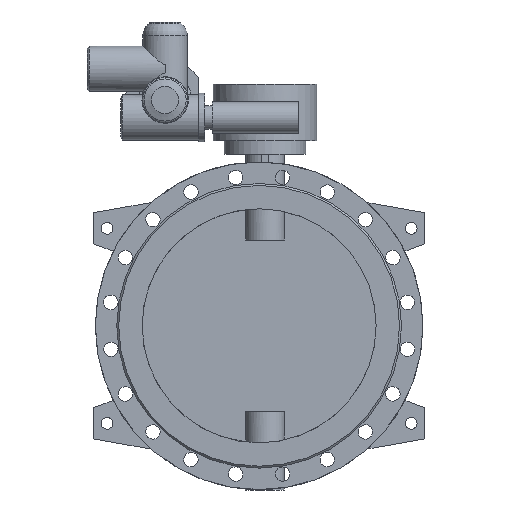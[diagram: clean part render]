
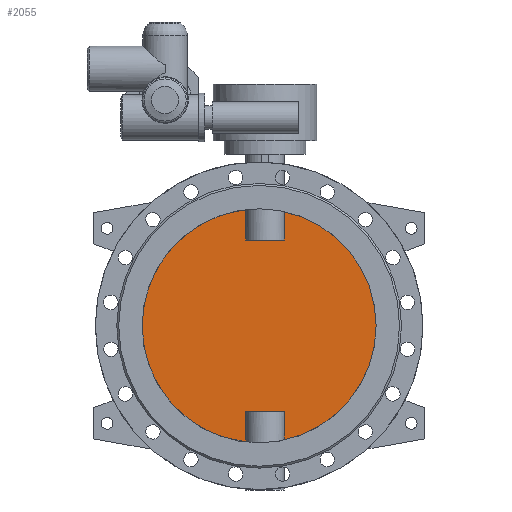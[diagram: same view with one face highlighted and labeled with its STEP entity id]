
A CAD part, front view. The second image highlights one B-rep face of the part: STEP entity #2055.
In plain terms, the highlighted planar face has unit normal (0, -1, 0).
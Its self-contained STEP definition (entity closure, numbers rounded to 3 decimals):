
#2055=ADVANCED_FACE('',(#4121),#4123,.F.);
#4121=FACE_BOUND('',#4122,.T.);
#4122=EDGE_LOOP('',(#5053,#5054,#5055,#5056,#5057,#5058,#5059,#5060));
#4123=PLANE('',#4124);
#4124=AXIS2_PLACEMENT_3D('',#4125,#4126,#4127);
#4125=CARTESIAN_POINT('',(0.,-5.,0.));
#4126=DIRECTION('',(0.,1.,0.));
#4127=DIRECTION('',(1.,0.,0.));
#5053=ORIENTED_EDGE('',*,*,#5520,.T.);
#5054=ORIENTED_EDGE('',*,*,#5525,.T.);
#5055=ORIENTED_EDGE('',*,*,#5526,.T.);
#5056=ORIENTED_EDGE('',*,*,#5527,.T.);
#5057=ORIENTED_EDGE('',*,*,#5522,.T.);
#5058=ORIENTED_EDGE('',*,*,#5528,.T.);
#5059=ORIENTED_EDGE('',*,*,#5529,.T.);
#5060=ORIENTED_EDGE('',*,*,#5530,.T.);
#5520=EDGE_CURVE('',#6337,#6338,#6339,.F.);
#5522=EDGE_CURVE('',#6342,#6340,#6343,.F.);
#5525=EDGE_CURVE('',#6338,#6347,#6348,.T.);
#5526=EDGE_CURVE('',#6347,#6349,#6350,.F.);
#5527=EDGE_CURVE('',#6349,#6342,#6351,.F.);
#5528=EDGE_CURVE('',#6340,#6352,#6353,.F.);
#5529=EDGE_CURVE('',#6352,#6354,#6355,.F.);
#5530=EDGE_CURVE('',#6354,#6337,#6356,.T.);
#6337=VERTEX_POINT('',#10209);
#6338=VERTEX_POINT('',#10210);
#6339=CIRCLE('',#10211,300.);
#6340=VERTEX_POINT('',#10215);
#6342=VERTEX_POINT('',#10302);
#6343=CIRCLE('',#10303,300.);
#6347=VERTEX_POINT('',#10420);
#6348=LINE('',#10421,#10422);
#6349=VERTEX_POINT('',#10424);
#6350=LINE('',#10425,#10426);
#6351=LINE('',#10428,#10429);
#6352=VERTEX_POINT('',#10431);
#6353=LINE('',#10432,#10433);
#6354=VERTEX_POINT('',#10435);
#6355=LINE('',#10436,#10437);
#6356=LINE('',#10439,#10440);
#10209=CARTESIAN_POINT('',(64.749,-5.,-292.929));
#10210=CARTESIAN_POINT('',(64.749,-5.,292.929));
#10211=AXIS2_PLACEMENT_3D('',#10212,#10213,#10214);
#10212=CARTESIAN_POINT('',(0.,-5.,0.));
#10213=DIRECTION('',(0.,1.,0.));
#10214=DIRECTION('',(0.216,0.,0.976));
#10215=CARTESIAN_POINT('',(-34.749,-5.,-297.981));
#10302=CARTESIAN_POINT('',(-34.749,-5.,297.981));
#10303=AXIS2_PLACEMENT_3D('',#10304,#10305,#10306);
#10304=CARTESIAN_POINT('',(0.,-5.,0.));
#10305=DIRECTION('',(0.,1.,0.));
#10306=DIRECTION('',(-0.116,0.,-0.993));
#10420=CARTESIAN_POINT('',(64.749,-5.,220.));
#10421=CARTESIAN_POINT('',(64.749,-5.,292.929));
#10422=VECTOR('',#10423,1.);
#10423=DIRECTION('',(0.,0.,-1.));
#10424=CARTESIAN_POINT('',(-34.749,-5.,220.));
#10425=CARTESIAN_POINT('',(-34.749,-5.,220.));
#10426=VECTOR('',#10427,1.);
#10427=DIRECTION('',(1.,0.,0.));
#10428=CARTESIAN_POINT('',(-34.749,-5.,297.981));
#10429=VECTOR('',#10430,1.);
#10430=DIRECTION('',(0.,0.,-1.));
#10431=CARTESIAN_POINT('',(-34.749,-5.,-220.));
#10432=CARTESIAN_POINT('',(-34.749,-5.,-220.));
#10433=VECTOR('',#10434,1.);
#10434=DIRECTION('',(0.,0.,-1.));
#10435=CARTESIAN_POINT('',(64.749,-5.,-220.));
#10436=CARTESIAN_POINT('',(64.749,-5.,-220.));
#10437=VECTOR('',#10438,1.);
#10438=DIRECTION('',(-1.,0.,0.));
#10439=CARTESIAN_POINT('',(64.749,-5.,-220.));
#10440=VECTOR('',#10441,1.);
#10441=DIRECTION('',(0.,0.,-1.));
